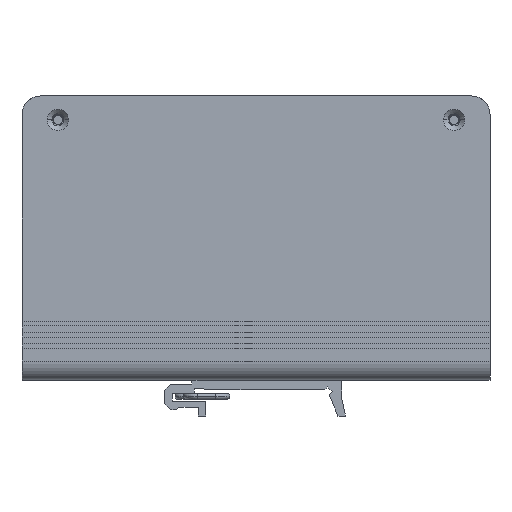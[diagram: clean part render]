
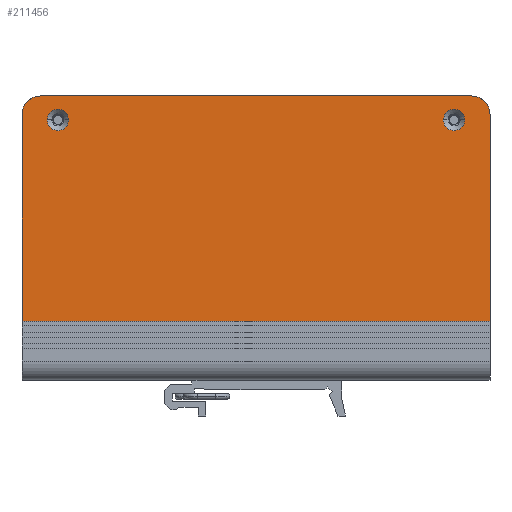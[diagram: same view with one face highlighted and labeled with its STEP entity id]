
A CAD part, front view. The second image highlights one B-rep face of the part: STEP entity #211456.
In plain terms, the highlighted planar face has unit normal (0, -1, 0).
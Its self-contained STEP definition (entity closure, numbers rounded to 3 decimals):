
#170654=DIRECTION('',(0.,0.,1.));
#170655=VECTOR('',#170654,55.2);
#170656=CARTESIAN_POINT('',(62.5,-19.7,-22.2));
#170657=LINE('',#170656,#170655);
#170674=DIRECTION('',(0.,0.,1.));
#170675=VECTOR('',#170674,55.2);
#170676=CARTESIAN_POINT('',(-62.5,-19.7,-22.2));
#170677=LINE('',#170676,#170675);
#170761=DIRECTION('',(-1.,0.,0.));
#170762=VECTOR('',#170761,115.);
#170763=CARTESIAN_POINT('',(57.5,-19.7,38.));
#170764=LINE('',#170763,#170762);
#170774=CARTESIAN_POINT('',(-57.5,-19.7,33.));
#170775=DIRECTION('',(0.,-1.,0.));
#170776=DIRECTION('',(0.,0.,1.));
#170777=AXIS2_PLACEMENT_3D('',#170774,#170775,#170776);
#170779=CARTESIAN_POINT('',(57.5,-19.7,33.));
#170780=DIRECTION('',(0.,-1.,0.));
#170781=DIRECTION('',(1.,0.,0.));
#170782=AXIS2_PLACEMENT_3D('',#170779,#170780,#170781);
#170784=DIRECTION('',(-1.,0.,0.));
#170785=VECTOR('',#170784,125.);
#170786=CARTESIAN_POINT('',(62.5,-19.7,-22.2));
#170787=LINE('',#170786,#170785);
#170788=CARTESIAN_POINT('',(-52.9,-19.7,31.6));
#170789=DIRECTION('',(0.,1.,0.));
#170790=DIRECTION('',(1.,0.,0.));
#170791=AXIS2_PLACEMENT_3D('',#170788,#170789,#170790);
#170793=CARTESIAN_POINT('',(-52.9,-19.7,31.6));
#170794=DIRECTION('',(0.,1.,0.));
#170795=DIRECTION('',(-1.,0.,0.));
#170796=AXIS2_PLACEMENT_3D('',#170793,#170794,#170795);
#170798=CARTESIAN_POINT('',(52.9,-19.7,31.6));
#170799=DIRECTION('',(0.,1.,0.));
#170800=DIRECTION('',(1.,0.,0.));
#170801=AXIS2_PLACEMENT_3D('',#170798,#170799,#170800);
#170803=CARTESIAN_POINT('',(52.9,-19.7,31.6));
#170804=DIRECTION('',(0.,1.,0.));
#170805=DIRECTION('',(-1.,0.,0.));
#170806=AXIS2_PLACEMENT_3D('',#170803,#170804,#170805);
#207903=CARTESIAN_POINT('',(62.5,-19.7,-22.2));
#207904=VERTEX_POINT('',#207903);
#207931=CARTESIAN_POINT('',(-62.5,-19.7,-22.2));
#207932=VERTEX_POINT('',#207931);
#207933=CARTESIAN_POINT('',(-57.5,-19.7,38.));
#207934=CARTESIAN_POINT('',(-62.5,-19.7,33.));
#207935=VERTEX_POINT('',#207933);
#207936=VERTEX_POINT('',#207934);
#207937=CARTESIAN_POINT('',(62.5,-19.7,33.));
#207938=CARTESIAN_POINT('',(57.5,-19.7,38.));
#207939=VERTEX_POINT('',#207937);
#207940=VERTEX_POINT('',#207938);
#208001=CARTESIAN_POINT('',(-50.05,-19.7,31.6));
#208002=CARTESIAN_POINT('',(-55.75,-19.7,31.6));
#208003=VERTEX_POINT('',#208001);
#208004=VERTEX_POINT('',#208002);
#208009=CARTESIAN_POINT('',(55.75,-19.7,31.6));
#208010=CARTESIAN_POINT('',(50.05,-19.7,31.6));
#208011=VERTEX_POINT('',#208009);
#208012=VERTEX_POINT('',#208010);
#211430=CARTESIAN_POINT('',(62.5,-19.7,-22.2));
#211431=DIRECTION('',(0.,-1.,0.));
#211432=DIRECTION('',(0.,0.,1.));
#211433=AXIS2_PLACEMENT_3D('',#211430,#211431,#211432);
#211434=PLANE('',#211433);
#211435=ORIENTED_EDGE('',*,*,#211397,.F.);
#211436=ORIENTED_EDGE('',*,*,#211411,.F.);
#211437=ORIENTED_EDGE('',*,*,#211424,.F.);
#211438=ORIENTED_EDGE('',*,*,#211325,.F.);
#211440=ORIENTED_EDGE('',*,*,#211439,.T.);
#211441=ORIENTED_EDGE('',*,*,#211354,.T.);
#211442=EDGE_LOOP('',(#211435,#211436,#211437,#211438,#211440,#211441));
#211443=FACE_OUTER_BOUND('',#211442,.F.);
#211445=ORIENTED_EDGE('',*,*,#211444,.F.);
#211447=ORIENTED_EDGE('',*,*,#211446,.F.);
#211448=EDGE_LOOP('',(#211445,#211447));
#211449=FACE_BOUND('',#211448,.F.);
#211451=ORIENTED_EDGE('',*,*,#211450,.F.);
#211453=ORIENTED_EDGE('',*,*,#211452,.F.);
#211454=EDGE_LOOP('',(#211451,#211453));
#211455=FACE_BOUND('',#211454,.F.);
#170778=CIRCLE('',#170777,5.);
#170783=CIRCLE('',#170782,5.);
#170792=CIRCLE('',#170791,2.85);
#170797=CIRCLE('',#170796,2.85);
#170802=CIRCLE('',#170801,2.85);
#170807=CIRCLE('',#170806,2.85);
#211325=EDGE_CURVE('',#207904,#207939,#170657,.T.);
#211354=EDGE_CURVE('',#207932,#207936,#170677,.T.);
#211397=EDGE_CURVE('',#207935,#207936,#170778,.T.);
#211411=EDGE_CURVE('',#207940,#207935,#170764,.T.);
#211424=EDGE_CURVE('',#207939,#207940,#170783,.T.);
#211439=EDGE_CURVE('',#207904,#207932,#170787,.T.);
#211444=EDGE_CURVE('',#208003,#208004,#170792,.T.);
#211446=EDGE_CURVE('',#208004,#208003,#170797,.T.);
#211450=EDGE_CURVE('',#208011,#208012,#170802,.T.);
#211452=EDGE_CURVE('',#208012,#208011,#170807,.T.);
#211456=ADVANCED_FACE('',(#211443,#211449,#211455),#211434,.T.);
